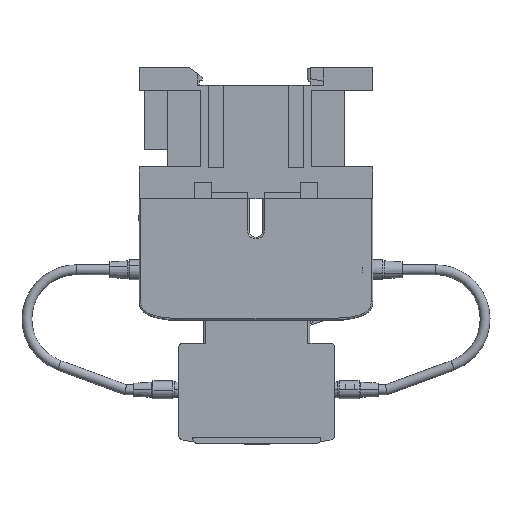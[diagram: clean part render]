
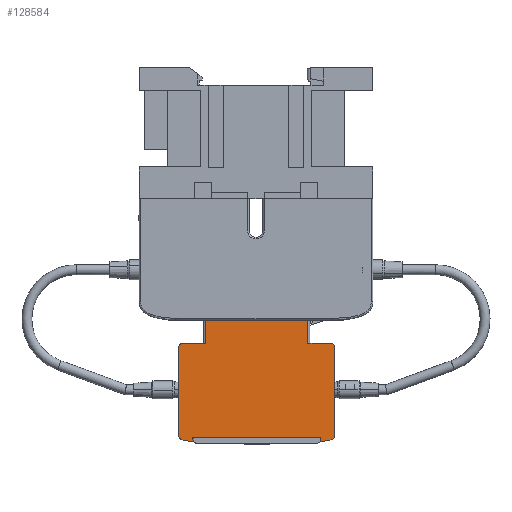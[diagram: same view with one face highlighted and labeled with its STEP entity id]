
A CAD part, front view. The second image highlights one B-rep face of the part: STEP entity #128584.
In plain terms, the highlighted planar face has unit normal (0, -1, 0).
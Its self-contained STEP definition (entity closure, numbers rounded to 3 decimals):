
#116268=DIRECTION('',(-1.,0.,0.));
#116269=VECTOR('',#116268,0.45);
#116270=CARTESIAN_POINT('',(20.,-22.,-73.65));
#116271=LINE('',#116270,#116269);
#116404=DIRECTION('',(-1.,0.,0.));
#116405=VECTOR('',#116404,0.45);
#116406=CARTESIAN_POINT('',(-19.15,-22.,-73.65));
#116407=LINE('',#116406,#116405);
#116416=CARTESIAN_POINT('',(-22.1,-22.,-45.35));
#116417=DIRECTION('',(0.,-1.,0.));
#116418=DIRECTION('',(0.,0.,1.));
#116419=AXIS2_PLACEMENT_3D('',#116416,#116417,#116418);
#116421=DIRECTION('',(0.,0.,-1.));
#116422=VECTOR('',#116421,7.);
#116423=CARTESIAN_POINT('',(-15.4,-22.,-36.85));
#116424=LINE('',#116423,#116422);
#116425=DIRECTION('',(1.,0.,0.));
#116426=VECTOR('',#116425,31.2);
#116427=CARTESIAN_POINT('',(-15.4,-22.,-36.85));
#116428=LINE('',#116427,#116426);
#116429=DIRECTION('',(0.,0.,1.));
#116430=VECTOR('',#116429,7.);
#116431=CARTESIAN_POINT('',(15.8,-22.,-43.85));
#116432=LINE('',#116431,#116430);
#116433=CARTESIAN_POINT('',(22.5,-22.,-45.35));
#116434=DIRECTION('',(0.,-1.,0.));
#116435=DIRECTION('',(1.,0.,0.));
#116436=AXIS2_PLACEMENT_3D('',#116433,#116434,#116435);
#116438=DIRECTION('',(0.,0.,-1.));
#116439=VECTOR('',#116438,26.3);
#116440=CARTESIAN_POINT('',(24.,-22.,-45.35));
#116441=LINE('',#116440,#116439);
#116442=CARTESIAN_POINT('',(20.,-22.,-73.65));
#116443=CARTESIAN_POINT('',(20.25,-22.,-73.65));
#116444=CARTESIAN_POINT('',(20.738,-22.,-73.638));
#116445=CARTESIAN_POINT('',(21.43,-22.,-73.58));
#116446=CARTESIAN_POINT('',(22.074,-22.,-73.474));
#116447=CARTESIAN_POINT('',(22.661,-22.,-73.311));
#116448=CARTESIAN_POINT('',(23.091,-22.,-73.116));
#116449=CARTESIAN_POINT('',(23.39,-22.,-72.915));
#116450=CARTESIAN_POINT('',(23.588,-22.,-72.738));
#116451=CARTESIAN_POINT('',(23.756,-22.,-72.531));
#116452=CARTESIAN_POINT('',(23.888,-22.,-72.288));
#116453=CARTESIAN_POINT('',(23.977,-22.,-72.002));
#116454=CARTESIAN_POINT('',(24.,-22.,-71.775));
#116455=CARTESIAN_POINT('',(24.,-22.,-71.65));
#116457=DIRECTION('',(0.,0.,1.));
#116458=VECTOR('',#116457,1.2);
#116459=CARTESIAN_POINT('',(19.55,-22.,-73.65));
#116460=LINE('',#116459,#116458);
#116461=DIRECTION('',(-1.,0.,0.));
#116462=VECTOR('',#116461,38.7);
#116463=CARTESIAN_POINT('',(19.55,-22.,-72.45));
#116464=LINE('',#116463,#116462);
#116465=DIRECTION('',(0.,0.,-1.));
#116466=VECTOR('',#116465,1.2);
#116467=CARTESIAN_POINT('',(-19.15,-22.,-72.45));
#116468=LINE('',#116467,#116466);
#116469=CARTESIAN_POINT('',(-23.6,-22.,-71.65));
#116470=CARTESIAN_POINT('',(-23.6,-22.,-71.775));
#116471=CARTESIAN_POINT('',(-23.577,-22.,-72.002));
#116472=CARTESIAN_POINT('',(-23.488,-22.,-72.288));
#116473=CARTESIAN_POINT('',(-23.356,-22.,-72.531));
#116474=CARTESIAN_POINT('',(-23.188,-22.,-72.738));
#116475=CARTESIAN_POINT('',(-22.99,-22.,-72.915));
#116476=CARTESIAN_POINT('',(-22.691,-22.,-73.116));
#116477=CARTESIAN_POINT('',(-22.261,-22.,-73.311));
#116478=CARTESIAN_POINT('',(-21.674,-22.,-73.474));
#116479=CARTESIAN_POINT('',(-21.03,-22.,-73.58));
#116480=CARTESIAN_POINT('',(-20.338,-22.,-73.638));
#116481=CARTESIAN_POINT('',(-19.85,-22.,-73.65));
#116482=CARTESIAN_POINT('',(-19.6,-22.,-73.65));
#116667=DIRECTION('',(0.,0.,-1.));
#116668=VECTOR('',#116667,26.3);
#116669=CARTESIAN_POINT('',(-23.6,-22.,-45.35));
#116670=LINE('',#116669,#116668);
#122339=DIRECTION('',(-1.,0.,0.));
#122340=VECTOR('',#122339,6.7);
#122341=CARTESIAN_POINT('',(-15.4,-22.,-43.85));
#122342=LINE('',#122341,#122340);
#122391=DIRECTION('',(-1.,0.,0.));
#122392=VECTOR('',#122391,6.7);
#122393=CARTESIAN_POINT('',(22.5,-22.,-43.85));
#122394=LINE('',#122393,#122392);
#125381=CARTESIAN_POINT('',(-19.15,-22.,-72.45));
#125382=CARTESIAN_POINT('',(19.55,-22.,-72.45));
#125383=VERTEX_POINT('',#125381);
#125384=VERTEX_POINT('',#125382);
#125385=CARTESIAN_POINT('',(-19.15,-22.,-73.65));
#125386=VERTEX_POINT('',#125385);
#125387=CARTESIAN_POINT('',(19.55,-22.,-73.65));
#125388=VERTEX_POINT('',#125387);
#126347=VERTEX_POINT('',#116442);
#126348=VERTEX_POINT('',#116455);
#126394=CARTESIAN_POINT('',(-23.6,-22.,-71.65));
#126395=VERTEX_POINT('',#126394);
#126396=VERTEX_POINT('',#116482);
#127671=CARTESIAN_POINT('',(-22.1,-22.,-43.85));
#127672=VERTEX_POINT('',#127671);
#127673=CARTESIAN_POINT('',(-23.6,-22.,-45.35));
#127674=VERTEX_POINT('',#127673);
#127723=CARTESIAN_POINT('',(24.,-22.,-45.35));
#127724=CARTESIAN_POINT('',(22.5,-22.,-43.85));
#127725=VERTEX_POINT('',#127723);
#127726=VERTEX_POINT('',#127724);
#127904=CARTESIAN_POINT('',(15.8,-22.,-36.85));
#127906=VERTEX_POINT('',#127904);
#127910=CARTESIAN_POINT('',(15.8,-22.,-43.85));
#127911=VERTEX_POINT('',#127910);
#127924=CARTESIAN_POINT('',(-15.4,-22.,-36.85));
#127925=VERTEX_POINT('',#127924);
#127926=CARTESIAN_POINT('',(-15.4,-22.,-43.85));
#127927=VERTEX_POINT('',#127926);
#128547=CARTESIAN_POINT('',(24.,-22.,-36.85));
#128548=DIRECTION('',(0.,-1.,0.));
#128549=DIRECTION('',(-1.,0.,0.));
#128550=AXIS2_PLACEMENT_3D('',#128547,#128548,#128549);
#128551=PLANE('',#128550);
#128553=ORIENTED_EDGE('',*,*,#128552,.F.);
#128555=ORIENTED_EDGE('',*,*,#128554,.F.);
#128557=ORIENTED_EDGE('',*,*,#128556,.F.);
#128559=ORIENTED_EDGE('',*,*,#128558,.T.);
#128561=ORIENTED_EDGE('',*,*,#128560,.F.);
#128563=ORIENTED_EDGE('',*,*,#128562,.F.);
#128565=ORIENTED_EDGE('',*,*,#128564,.F.);
#128567=ORIENTED_EDGE('',*,*,#128566,.T.);
#128569=ORIENTED_EDGE('',*,*,#128568,.F.);
#128570=ORIENTED_EDGE('',*,*,#128328,.T.);
#128572=ORIENTED_EDGE('',*,*,#128571,.T.);
#128574=ORIENTED_EDGE('',*,*,#128573,.T.);
#128576=ORIENTED_EDGE('',*,*,#128575,.T.);
#128577=ORIENTED_EDGE('',*,*,#128531,.T.);
#128579=ORIENTED_EDGE('',*,*,#128578,.F.);
#128581=ORIENTED_EDGE('',*,*,#128580,.F.);
#128582=EDGE_LOOP('',(#128553,#128555,#128557,#128559,#128561,#128563,#128565,
#128567,#128569,#128570,#128572,#128574,#128576,#128577,#128579,#128581));
#128583=FACE_OUTER_BOUND('',#128582,.F.);
#128584=ADVANCED_FACE('',(#128583),#128551,.T.);
#116420=CIRCLE('',#116419,1.5);
#116437=CIRCLE('',#116436,1.5);
#116456=B_SPLINE_CURVE_WITH_KNOTS('',3,(#116442,#116443,#116444,#116445,#116446,
#116447,#116448,#116449,#116450,#116451,#116452,#116453,#116454,#116455),
.UNSPECIFIED.,.F.,.F.,(4,1,1,1,1,1,1,1,1,1,1,4),(0.,0.125,0.25,0.375,
0.5,0.625,0.688,0.75,0.813,0.875,0.938,1.),.UNSPECIFIED.);
#116483=B_SPLINE_CURVE_WITH_KNOTS('',3,(#116469,#116470,#116471,#116472,#116473,
#116474,#116475,#116476,#116477,#116478,#116479,#116480,#116481,#116482),
.UNSPECIFIED.,.F.,.F.,(4,1,1,1,1,1,1,1,1,1,1,4),(0.,0.063,0.125,0.188,
0.25,0.313,0.375,0.5,0.625,0.75,0.875,1.),.UNSPECIFIED.);
#128328=EDGE_CURVE('',#126347,#125388,#116271,.T.);
#128531=EDGE_CURVE('',#125386,#126396,#116407,.T.);
#128552=EDGE_CURVE('',#127672,#127674,#116420,.T.);
#128554=EDGE_CURVE('',#127927,#127672,#122342,.T.);
#128556=EDGE_CURVE('',#127925,#127927,#116424,.T.);
#128558=EDGE_CURVE('',#127925,#127906,#116428,.T.);
#128560=EDGE_CURVE('',#127911,#127906,#116432,.T.);
#128562=EDGE_CURVE('',#127726,#127911,#122394,.T.);
#128564=EDGE_CURVE('',#127725,#127726,#116437,.T.);
#128566=EDGE_CURVE('',#127725,#126348,#116441,.T.);
#128568=EDGE_CURVE('',#126347,#126348,#116456,.T.);
#128571=EDGE_CURVE('',#125388,#125384,#116460,.T.);
#128573=EDGE_CURVE('',#125384,#125383,#116464,.T.);
#128575=EDGE_CURVE('',#125383,#125386,#116468,.T.);
#128578=EDGE_CURVE('',#126395,#126396,#116483,.T.);
#128580=EDGE_CURVE('',#127674,#126395,#116670,.T.);
